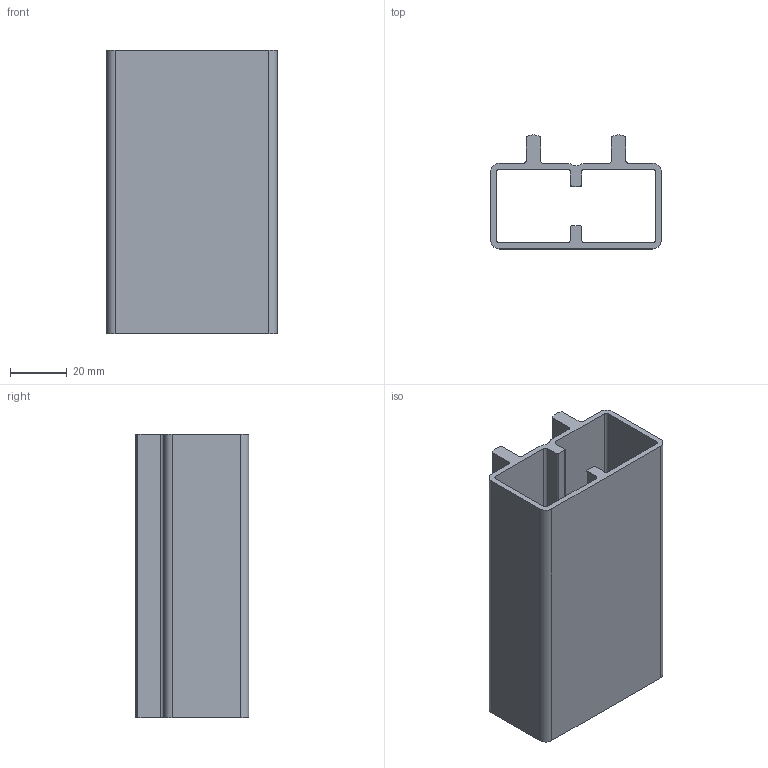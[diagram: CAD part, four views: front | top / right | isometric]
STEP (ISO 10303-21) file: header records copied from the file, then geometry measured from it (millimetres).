
FILE_DESCRIPTION (( 'STEP AP203' ), '1' );
FILE_NAME ('013.030.012.STEP', '2020-09-18T14:22:37', ( '' ), ( '' ), 'SwSTEP 2.0', 'SolidWorks 2018', '' );
FILE_SCHEMA (( 'CONFIG_CONTROL_DESIGN' ));
Length unit declared in the file: millimetre
Products named in the file (1): 013.030.012
Bounding box: 60 x 39.99 x 100 mm (x, y, z)
Volume: 48170.9 mm3; surface area: 40433 mm2
Topology: 1 solids, 1 shells, 58 faces, 168 edges, 112 vertices
Faces by surface type: plane 29, cylinder 29
Entity records: 2011 total; most frequent: DIRECTION 344, CARTESIAN_POINT 339, ORIENTED_EDGE 336, EDGE_CURVE 168, AXIS2_PLACEMENT_3D 117, VERTEX_POINT 112, VECTOR 110, LINE 110
